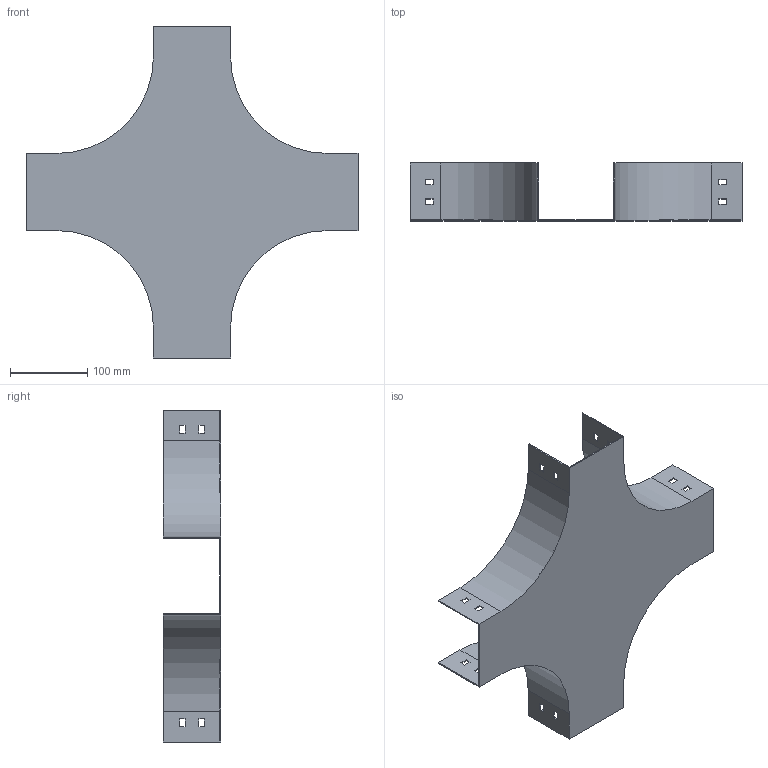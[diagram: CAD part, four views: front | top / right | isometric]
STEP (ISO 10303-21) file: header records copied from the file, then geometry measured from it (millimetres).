
FILE_DESCRIPTION (( 'STEP AP214' ), '1' );
FILE_NAME ('PC_107.step', '2025-07-16T09:21:46', ( '' ), ( '' ), 'SwSTEP 2.0', 'SolidWorks 2023', '' );
FILE_SCHEMA (( 'AUTOMOTIVE_DESIGN' ));
Length unit declared in the file: millimetre
Products named in the file (1): PC_107
Bounding box: 430 x 75 x 430 mm (x, y, z)
Volume: 254828.6 mm3; surface area: 343727.6 mm2
Topology: 1 solids, 1 shells, 98 faces, 288 edges, 192 vertices
Faces by surface type: plane 90, cylinder 8
Entity records: 3295 total; most frequent: CARTESIAN_POINT 579, ORIENTED_EDGE 576, DIRECTION 502, EDGE_CURVE 288, VECTOR 272, LINE 272, VERTEX_POINT 192, EDGE_LOOP 130
